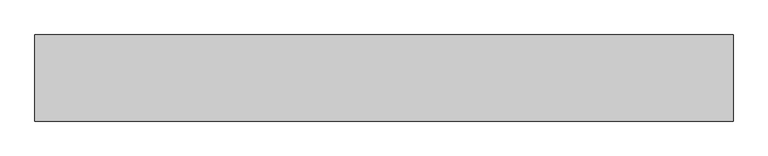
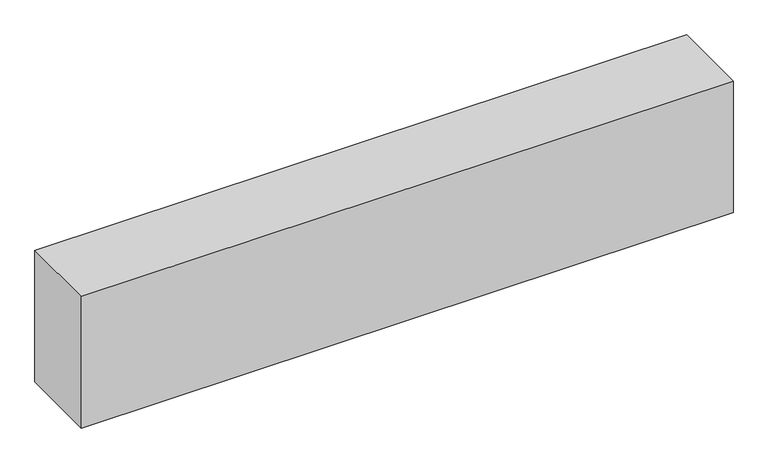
"""IFC4 building model written with IfcOpenShell, lengths in millimetres: proxy geometry."""

from ifc_helpers import new_model, si_unit, origin, origin_with_axes, place, context, project, spatial, polyline, outline, extrude, source, transform, mapped, element, save


def generic_models_f96cdd13(model_context):
    return source(origin(), model_context, "Body", "SweptSolid", [
        extrude(outline(polyline([(-96644.9987767, -17599.999999), (-96644.9987767, -19100.7903364), (-108816.1304765, -19100.7903364), (-108816.1304765, -17599.999999), (-96644.9987767, -17599.999999)])), origin_with_axes(), (0.0, 0.0, 1.0), 2600.0),
    ])


if __name__ == "__main__":
    model = new_model("IFC4")
    model_context = context("Model", 3, world=origin())
    ifc_project = project(units=[si_unit("LENGTHUNIT", "METRE", prefix="MILLI")], contexts=[model_context])
    site = spatial("IfcSite", under=ifc_project)
    building = spatial("IfcBuilding", under=site)
    placement = place(None, origin())
    generic_models_shape = generic_models_f96cdd13(model_context)
    element("IfcBuildingElementProxy", 1, Name="Generic Models", at=placement, inside=building, context=model_context, shape_type="MappedRepresentation", body=[
        mapped(generic_models_shape, transform((0.0, 0.0, 0.0), x_axis=(1.0, 0.0, 0.0), y_axis=(0.0, 1.0, 0.0), z_axis=(0.0, 0.0, 1.0))),
    ])
    save(model, "model.ifc")
